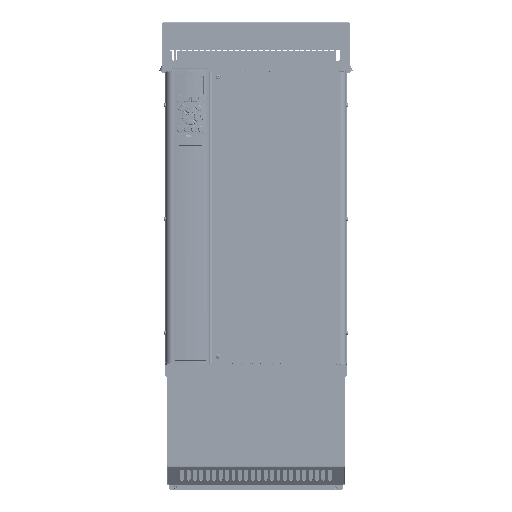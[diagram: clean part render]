
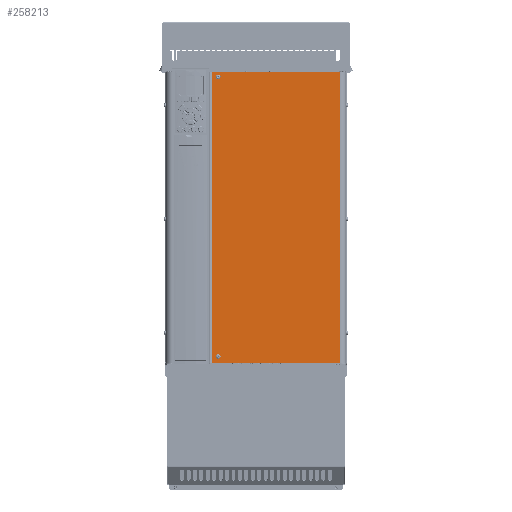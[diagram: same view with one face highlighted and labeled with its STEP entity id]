
A CAD part, top view. The second image highlights one B-rep face of the part: STEP entity #258213.
In plain terms, the highlighted planar face has unit normal (0, 0, 1).
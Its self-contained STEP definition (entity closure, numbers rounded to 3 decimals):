
#5791=DIRECTION('',(1.,0.,0.));
#5792=VECTOR('',#5791,257.671);
#5793=CARTESIAN_POINT('',(-88.56,293.55,325.8));
#5794=LINE('',#5793,#5792);
#58526=DIRECTION('',(1.,0.,0.));
#58527=VECTOR('',#58526,250.452);
#58528=CARTESIAN_POINT('',(-88.56,-295.5,325.8));
#58529=LINE('',#58528,#58527);
#58535=DIRECTION('',(1.,0.,0.));
#58536=VECTOR('',#58535,1.003);
#58537=CARTESIAN_POINT('',(168.108,-295.5,325.8));
#58538=LINE('',#58537,#58536);
#79425=DIRECTION('',(-1.,0.,0.));
#79426=VECTOR('',#79425,4.022);
#79427=CARTESIAN_POINT('',(167.011,-295.45,325.8));
#79428=LINE('',#79427,#79426);
#79429=CARTESIAN_POINT('',(162.989,-295.45,325.8));
#79430=CARTESIAN_POINT('',(162.967,-295.45,325.8));
#79431=CARTESIAN_POINT('',(162.923,-295.45,325.8));
#79432=CARTESIAN_POINT('',(162.856,-295.451,325.8));
#79433=CARTESIAN_POINT('',(162.789,-295.451,325.8));
#79434=CARTESIAN_POINT('',(162.722,-295.452,325.8));
#79435=CARTESIAN_POINT('',(162.655,-295.454,325.8));
#79436=CARTESIAN_POINT('',(162.588,-295.455,325.8));
#79437=CARTESIAN_POINT('',(162.52,-295.458,325.8));
#79438=CARTESIAN_POINT('',(162.452,-295.46,325.8));
#79439=CARTESIAN_POINT('',(162.384,-295.463,325.8));
#79440=CARTESIAN_POINT('',(162.315,-295.467,325.8));
#79441=CARTESIAN_POINT('',(162.246,-295.471,325.8));
#79442=CARTESIAN_POINT('',(162.176,-295.475,325.8));
#79443=CARTESIAN_POINT('',(162.106,-295.481,325.8));
#79444=CARTESIAN_POINT('',(162.035,-295.486,325.8));
#79445=CARTESIAN_POINT('',(161.964,-295.493,325.8));
#79446=CARTESIAN_POINT('',(161.916,-295.498,325.8));
#79447=CARTESIAN_POINT('',(161.892,-295.5,325.8));
#79449=DIRECTION('',(0.,-1.,0.));
#79450=VECTOR('',#79449,589.05);
#79451=CARTESIAN_POINT('',(-88.56,293.55,325.8));
#79452=LINE('',#79451,#79450);
#79453=CARTESIAN_POINT('',(168.108,-295.5,325.8));
#79454=CARTESIAN_POINT('',(168.084,-295.498,325.8));
#79455=CARTESIAN_POINT('',(168.036,-295.493,325.8));
#79456=CARTESIAN_POINT('',(167.965,-295.486,325.8));
#79457=CARTESIAN_POINT('',(167.894,-295.481,325.8));
#79458=CARTESIAN_POINT('',(167.824,-295.475,325.8));
#79459=CARTESIAN_POINT('',(167.754,-295.471,325.8));
#79460=CARTESIAN_POINT('',(167.685,-295.467,325.8));
#79461=CARTESIAN_POINT('',(167.616,-295.463,325.8));
#79462=CARTESIAN_POINT('',(167.548,-295.46,325.8));
#79463=CARTESIAN_POINT('',(167.48,-295.458,325.8));
#79464=CARTESIAN_POINT('',(167.412,-295.455,325.8));
#79465=CARTESIAN_POINT('',(167.345,-295.454,325.8));
#79466=CARTESIAN_POINT('',(167.277,-295.452,325.8));
#79467=CARTESIAN_POINT('',(167.211,-295.451,325.8));
#79468=CARTESIAN_POINT('',(167.144,-295.451,325.8));
#79469=CARTESIAN_POINT('',(167.077,-295.45,325.8));
#79470=CARTESIAN_POINT('',(167.033,-295.45,325.8));
#79471=CARTESIAN_POINT('',(167.011,-295.45,325.8));
#79473=CARTESIAN_POINT('',(-76.5,282.9,325.8));
#79474=DIRECTION('',(0.,0.,-1.));
#79475=DIRECTION('',(-1.,0.,0.));
#79476=AXIS2_PLACEMENT_3D('',#79473,#79474,#79475);
#79478=CARTESIAN_POINT('',(-76.5,282.9,325.8));
#79479=DIRECTION('',(0.,0.,1.));
#79480=DIRECTION('',(-1.,0.,0.));
#79481=AXIS2_PLACEMENT_3D('',#79478,#79479,#79480);
#79483=CARTESIAN_POINT('',(-76.5,282.9,325.8));
#79484=DIRECTION('',(0.,0.,-1.));
#79485=DIRECTION('',(0.265,0.964,0.));
#79486=AXIS2_PLACEMENT_3D('',#79483,#79484,#79485);
#79488=CARTESIAN_POINT('',(-76.5,285.1,325.8));
#79489=DIRECTION('',(0.,0.,1.));
#79490=DIRECTION('',(0.49,0.871,0.));
#79491=AXIS2_PLACEMENT_3D('',#79488,#79489,#79490);
#79493=CARTESIAN_POINT('',(-76.5,-282.9,325.8));
#79494=DIRECTION('',(0.,0.,-1.));
#79495=DIRECTION('',(-1.,0.,0.));
#79496=AXIS2_PLACEMENT_3D('',#79493,#79494,#79495);
#79498=CARTESIAN_POINT('',(-76.5,-282.9,325.8));
#79499=DIRECTION('',(0.,0.,-1.));
#79500=DIRECTION('',(-0.265,-0.964,0.));
#79501=AXIS2_PLACEMENT_3D('',#79498,#79499,#79500);
#79503=CARTESIAN_POINT('',(-76.5,-285.1,325.8));
#79504=DIRECTION('',(0.,0.,1.));
#79505=DIRECTION('',(-0.49,-0.871,0.));
#79506=AXIS2_PLACEMENT_3D('',#79503,#79504,#79505);
#79508=CARTESIAN_POINT('',(-76.5,-282.9,325.8));
#79509=DIRECTION('',(0.,0.,1.));
#79510=DIRECTION('',(0.265,-0.964,0.));
#79511=AXIS2_PLACEMENT_3D('',#79508,#79509,#79510);
#79518=DIRECTION('',(0.,-1.,0.));
#79519=VECTOR('',#79518,589.05);
#79520=CARTESIAN_POINT('',(169.111,293.55,325.8));
#79521=LINE('',#79520,#79519);
#144669=CARTESIAN_POINT('',(169.111,-295.5,325.8));
#144671=VERTEX_POINT('',#144669);
#144685=CARTESIAN_POINT('',(-88.56,-295.5,325.8));
#144686=VERTEX_POINT('',#144685);
#144688=CARTESIAN_POINT('',(169.111,293.55,325.8));
#144690=VERTEX_POINT('',#144688);
#144693=CARTESIAN_POINT('',(-88.56,293.55,325.8));
#144695=VERTEX_POINT('',#144693);
#151868=CARTESIAN_POINT('',(167.011,-295.45,325.8));
#151869=CARTESIAN_POINT('',(162.989,-295.45,325.8));
#151870=VERTEX_POINT('',#151868);
#151871=VERTEX_POINT('',#151869);
#151872=VERTEX_POINT('',#79447);
#151873=VERTEX_POINT('',#79453);
#157729=CARTESIAN_POINT('',(-80.95,282.9,325.8));
#157730=CARTESIAN_POINT('',(-77.677,287.191,325.8));
#157731=VERTEX_POINT('',#157729);
#157732=VERTEX_POINT('',#157730);
#157733=CARTESIAN_POINT('',(-72.05,282.9,325.8));
#157734=VERTEX_POINT('',#157733);
#157751=CARTESIAN_POINT('',(-75.323,287.191,325.8));
#157752=VERTEX_POINT('',#157751);
#157878=CARTESIAN_POINT('',(-80.95,-282.9,325.8));
#157879=CARTESIAN_POINT('',(-72.05,-282.9,325.8));
#157880=VERTEX_POINT('',#157878);
#157881=VERTEX_POINT('',#157879);
#157882=CARTESIAN_POINT('',(-75.323,-287.191,325.8));
#157883=VERTEX_POINT('',#157882);
#157884=CARTESIAN_POINT('',(-77.677,-287.191,325.8));
#157885=VERTEX_POINT('',#157884);
#258174=CARTESIAN_POINT('',(-88.56,295.5,325.8));
#258175=DIRECTION('',(0.,0.,-1.));
#258176=DIRECTION('',(1.,0.,0.));
#258177=AXIS2_PLACEMENT_3D('',#258174,#258175,#258176);
#258178=PLANE('',#258177);
#258180=ORIENTED_EDGE('',*,*,#258179,.T.);
#258182=ORIENTED_EDGE('',*,*,#258181,.T.);
#258183=ORIENTED_EDGE('',*,*,#226444,.F.);
#258184=ORIENTED_EDGE('',*,*,#258167,.F.);
#258185=ORIENTED_EDGE('',*,*,#173503,.T.);
#258187=ORIENTED_EDGE('',*,*,#258186,.T.);
#258188=ORIENTED_EDGE('',*,*,#226448,.F.);
#258190=ORIENTED_EDGE('',*,*,#258189,.T.);
#258191=EDGE_LOOP('',(#258180,#258182,#258183,#258184,#258185,#258187,#258188,
#258190));
#258192=FACE_OUTER_BOUND('',#258191,.F.);
#258194=ORIENTED_EDGE('',*,*,#258193,.F.);
#258196=ORIENTED_EDGE('',*,*,#258195,.T.);
#258198=ORIENTED_EDGE('',*,*,#258197,.F.);
#258200=ORIENTED_EDGE('',*,*,#258199,.T.);
#258201=EDGE_LOOP('',(#258194,#258196,#258198,#258200));
#258202=FACE_BOUND('',#258201,.F.);
#258204=ORIENTED_EDGE('',*,*,#258203,.F.);
#258206=ORIENTED_EDGE('',*,*,#258205,.F.);
#258208=ORIENTED_EDGE('',*,*,#258207,.T.);
#258210=ORIENTED_EDGE('',*,*,#258209,.T.);
#258211=EDGE_LOOP('',(#258204,#258206,#258208,#258210));
#258212=FACE_BOUND('',#258211,.F.);
#258213=ADVANCED_FACE('',(#258192,#258202,#258212),#258178,.F.);
#79448=B_SPLINE_CURVE_WITH_KNOTS('',3,(#79429,#79430,#79431,#79432,#79433,
#79434,#79435,#79436,#79437,#79438,#79439,#79440,#79441,#79442,#79443,#79444,
#79445,#79446,#79447),.UNSPECIFIED.,.F.,.F.,(4,1,1,1,1,1,1,1,1,1,1,1,1,1,1,1,4),
(0.,0.063,0.125,0.188,0.25,0.313,0.375,0.438,0.5,0.563,
0.625,0.688,0.75,0.813,0.875,0.938,1.),.UNSPECIFIED.);
#79472=B_SPLINE_CURVE_WITH_KNOTS('',3,(#79453,#79454,#79455,#79456,#79457,
#79458,#79459,#79460,#79461,#79462,#79463,#79464,#79465,#79466,#79467,#79468,
#79469,#79470,#79471),.UNSPECIFIED.,.F.,.F.,(4,1,1,1,1,1,1,1,1,1,1,1,1,1,1,1,4),
(0.,0.063,0.125,0.188,0.25,0.313,0.375,0.438,0.5,0.563,
0.625,0.688,0.75,0.813,0.875,0.938,1.),.UNSPECIFIED.);
#79477=CIRCLE('',#79476,4.45);
#79482=CIRCLE('',#79481,4.45);
#79487=CIRCLE('',#79486,4.45);
#79492=CIRCLE('',#79491,2.4);
#79497=CIRCLE('',#79496,4.45);
#79502=CIRCLE('',#79501,4.45);
#79507=CIRCLE('',#79506,2.4);
#79512=CIRCLE('',#79511,4.45);
#173503=EDGE_CURVE('',#144695,#144690,#5794,.T.);
#226444=EDGE_CURVE('',#144686,#151872,#58529,.T.);
#226448=EDGE_CURVE('',#151873,#144671,#58538,.T.);
#258167=EDGE_CURVE('',#144695,#144686,#79452,.T.);
#258179=EDGE_CURVE('',#151870,#151871,#79428,.T.);
#258181=EDGE_CURVE('',#151871,#151872,#79448,.T.);
#258186=EDGE_CURVE('',#144690,#144671,#79521,.T.);
#258189=EDGE_CURVE('',#151873,#151870,#79472,.T.);
#258193=EDGE_CURVE('',#157731,#157732,#79477,.T.);
#258195=EDGE_CURVE('',#157731,#157734,#79482,.T.);
#258197=EDGE_CURVE('',#157752,#157734,#79487,.T.);
#258199=EDGE_CURVE('',#157752,#157732,#79492,.T.);
#258203=EDGE_CURVE('',#157880,#157881,#79497,.T.);
#258205=EDGE_CURVE('',#157885,#157880,#79502,.T.);
#258207=EDGE_CURVE('',#157885,#157883,#79507,.T.);
#258209=EDGE_CURVE('',#157883,#157881,#79512,.T.);
